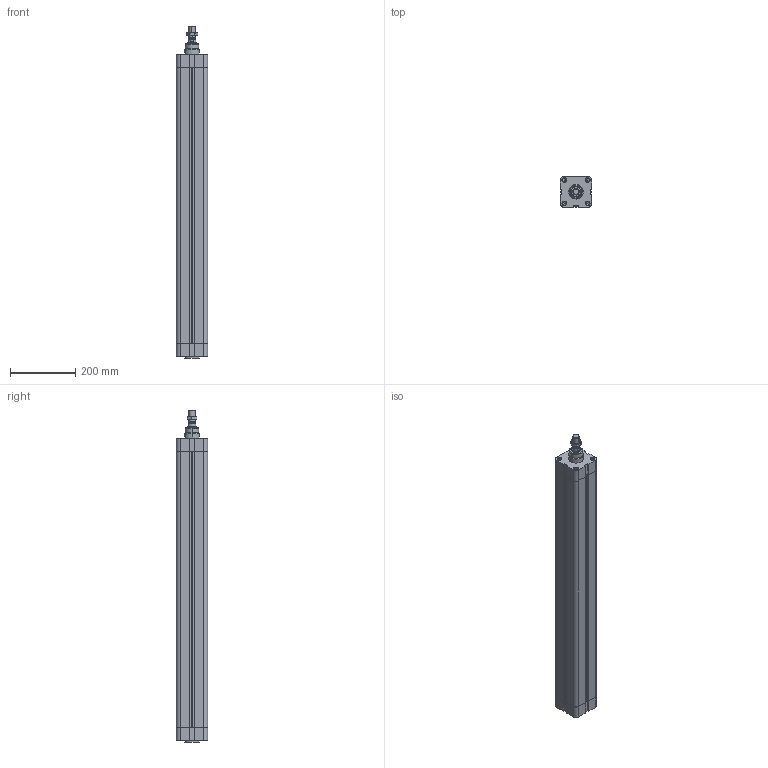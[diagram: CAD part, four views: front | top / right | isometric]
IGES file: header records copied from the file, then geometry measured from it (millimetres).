
Global section: file name: No Iges File Name specified; native system: Autodesk Inventor 2010; preprocessor: AutoDesk Inventor Iges Exporter R2010; author: rivolro1; date: 20090707.103517; units: millimetre
Bounding box: 95.5 x 95.5 x 1018 mm (x, y, z)
Volume: 4622943 mm3; surface area: 770204.1 mm2
Topology: 5 solids, 5 shells, 290 faces, 694 edges, 440 vertices
Faces by surface type: plane 120, bspline 74, cylinder 40, revolution 34, cone 20, torus 2
